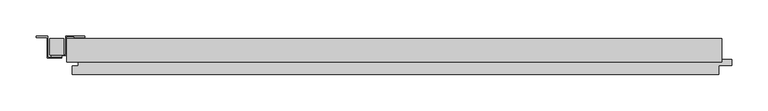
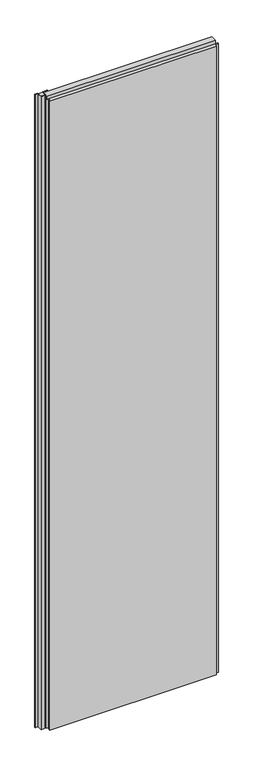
"""IFC4 building model written with IfcOpenShell, lengths in millimetres: plate geometry, Trimo_Qbiss Screen_Normal Panel-VERTICAL : HR - FB-F."""

import ifcopenshell
import ifcopenshell.guid

model = None  # the IFC model being written
_history = None  # IfcOwnerHistory: only IFC2X3 demands one
_inside = {}  # id of a spatial element -> (the spatial element, [elements in it])
_under = {}  # id of a project, library or spatial element -> (it, [spatial elements below it])
_declared = {}  # id of a project -> (the project, [libraries it declares])
_typed = {}  # id of a type object -> (the type object, [elements of that type])
_made_of = {}  # id of a material, layer set ... -> (it, [elements and type objects made of it])


def new_model(schema):
    """Start an empty IFC model of exactly this schema.

    Asked for "IFC4X3", IfcOpenShell would pick the latest addendum, in which some entities
    have other attributes; the version numbers below select the first issue.
    IFC2X3 requires an IfcOwnerHistory on every rooted entity: one is made here for all.
    """
    global model, _history
    if schema == "IFC4X3":
        model = ifcopenshell.file(schema_version=(4, 3, 0, 0))
    else:
        model = ifcopenshell.file(schema=schema)
    _inside.clear()
    _under.clear()
    _declared.clear()
    _typed.clear()
    _made_of.clear()
    _history = None
    if model.schema == "IFC2X3":
        org = make("IfcOrganization", Name="unknown")
        user = make(
            "IfcPersonAndOrganization",
            ThePerson=make("IfcPerson", FamilyName="unknown"),
            TheOrganization=org,
        )
        app = make(
            "IfcApplication",
            ApplicationDeveloper=org,
            Version="unknown",
            ApplicationFullName="unknown",
            ApplicationIdentifier="unknown",
        )
        _history = make(
            "IfcOwnerHistory",
            OwningUser=user,
            OwningApplication=app,
            ChangeAction="ADDED",
            CreationDate=0,
        )
    return model


def make(cls, **values):
    """One entity of the class cls with the attributes given. An attribute that is None is left unset."""
    return model.create_entity(
        cls, **{name: value for name, value in values.items() if value is not None}
    )


def rooted(cls, **values):
    """An entity with a GlobalId (a new one), such as an element, a storey or a relation."""
    return make(cls, GlobalId=ifcopenshell.guid.new(), OwnerHistory=_history, **values)


def si_unit(unit_type, name, prefix=None):
    """IfcSIUnit, for example si_unit("LENGTHUNIT", "METRE", prefix="MILLI")."""
    return make("IfcSIUnit", UnitType=unit_type, Prefix=prefix, Name=name)


def assignment(units):
    """IfcUnitAssignment: the units of a project."""
    return None if units is None else make("IfcUnitAssignment", Units=units)


def point(xyz):
    """IfcCartesianPoint."""
    return None if xyz is None else make("IfcCartesianPoint", Coordinates=xyz)


def direction(xyz):
    """IfcDirection."""
    return None if xyz is None else make("IfcDirection", DirectionRatios=xyz)


def frame(location, z_axis=None, x_axis=None):
    """IfcAxis2Placement3D, a coordinate frame: its origin and axes. An axis left out is left unset."""
    return make(
        "IfcAxis2Placement3D",
        Location=point(location),
        Axis=direction(z_axis),
        RefDirection=direction(x_axis),
    )


def origin():
    """The frame at (0, 0, 0) with its axes left unset."""
    return frame((0.0, 0.0, 0.0))


def place(relative_to, where):
    """IfcLocalPlacement: puts the frame where relative to a parent placement (None: the world)."""
    return make(
        "IfcLocalPlacement", PlacementRelTo=relative_to, RelativePlacement=where
    )


def context(
    kind, dimensions, precision=None, world=None, true_north=None, identifier=None
):
    """IfcGeometricRepresentationContext, for example the 3D "Model" context."""
    return make(
        "IfcGeometricRepresentationContext",
        ContextIdentifier=identifier,
        ContextType=kind,
        CoordinateSpaceDimension=dimensions,
        Precision=precision,
        WorldCoordinateSystem=world,
        TrueNorth=true_north,
    )


def project(units=None, contexts=None):
    """IfcProject with its units and contexts."""
    return rooted(
        "IfcProject",
        Name="project",
        RepresentationContexts=contexts,
        UnitsInContext=assignment(units),
    )


def spatial(cls, under=None, at=None, **own):
    """A site, building, storey or space (cls), placed at a placement, below another one or the project."""
    s = rooted(cls, ObjectPlacement=at, **own)
    if under is not None:
        _under.setdefault(under.id(), (under, []))[1].append(s)
    return s


def polyline(points):
    """IfcPolyline through the points."""
    return make("IfcPolyline", Points=[point(p) for p in points])


def outline(outer, holes=None, kind="AREA"):
    """IfcArbitraryClosedProfileDef: a profile drawn as a closed curve; with holes, ...WithVoids."""
    if holes is None:
        return make("IfcArbitraryClosedProfileDef", ProfileType=kind, OuterCurve=outer)
    return make(
        "IfcArbitraryProfileDefWithVoids",
        ProfileType=kind,
        OuterCurve=outer,
        InnerCurves=holes,
    )


def extrude(swept, where, along, depth):
    """IfcExtrudedAreaSolid: the profile swept, set in the frame where, extruded along a direction by depth."""
    return make(
        "IfcExtrudedAreaSolid",
        SweptArea=swept,
        Position=where,
        ExtrudedDirection=direction(along),
        Depth=depth,
    )


def shape(context_of_items, identifier, shape_type, items):
    """IfcShapeRepresentation: the items that make up one representation, for example the "Body"."""
    return make(
        "IfcShapeRepresentation",
        ContextOfItems=context_of_items,
        RepresentationIdentifier=identifier,
        RepresentationType=shape_type,
        Items=items,
    )


def source(mapping_origin, context_of_items, identifier, shape_type, items):
    """IfcRepresentationMap: a shape defined once, which mapped items show again and again."""
    return make(
        "IfcRepresentationMap",
        MappingOrigin=mapping_origin,
        MappedRepresentation=shape(context_of_items, identifier, shape_type, items),
    )


def transform(
    local_origin,
    x_axis=None,
    y_axis=None,
    z_axis=None,
    scale=None,
    scale2=None,
    scale3=None,
    uniform=True,
):
    """IfcCartesianTransformationOperator3D, or its non-uniform kind. x_axis, y_axis, z_axis: its Axis1, 2, 3."""
    if uniform:
        return make(
            "IfcCartesianTransformationOperator3D",
            Axis1=direction(x_axis),
            Axis2=direction(y_axis),
            LocalOrigin=point(local_origin),
            Scale=scale,
            Axis3=direction(z_axis),
        )
    return make(
        "IfcCartesianTransformationOperator3DnonUniform",
        Axis1=direction(x_axis),
        Axis2=direction(y_axis),
        LocalOrigin=point(local_origin),
        Scale=scale,
        Axis3=direction(z_axis),
        Scale2=scale2,
        Scale3=scale3,
    )


def mapped(mapping_source, mapping_target):
    """IfcMappedItem: shows the shape of a source again, moved by a transform."""
    return make(
        "IfcMappedItem", MappingSource=mapping_source, MappingTarget=mapping_target
    )


def made_of(thing, what):
    """Note that an element or type object is made of a material, layer set ...; save() writes the relation."""
    if what is not None:
        _made_of.setdefault(what.id(), (what, []))[1].append(thing)
    return thing


def element(
    cls,
    number,
    at=None,
    inside=None,
    cuts=None,
    type_object=None,
    material=None,
    context=None,
    identifier="Body",
    shape_type=None,
    held_by="IfcProductDefinitionShape",
    body=None,
    shapes=None,
    **own,
):
    """One element of the class cls, such as IfcWall. Its Tag is "e" and its number.

    at: its placement. inside: the storey or other place that contains it. cuts: it is an
    opening in that element (IfcRelVoidsElement). A single representation is given by context,
    identifier, shape_type and body (its items); several are given by shapes. held_by: the class
    of the entity that holds the representations. save() writes the other relations.
    """
    e = rooted(cls, Tag="e%d" % number, ObjectPlacement=at, **own)
    if body is not None:
        shapes = [shape(context, identifier, shape_type, body)]
    if shapes is not None:
        e.Representation = make(held_by, Representations=shapes)
    if inside is not None:
        _inside.setdefault(inside.id(), (inside, []))[1].append(e)
    if cuts is not None:
        rooted(
            "IfcRelVoidsElement", RelatingBuildingElement=cuts, RelatedOpeningElement=e
        )
    if type_object is not None:
        _typed.setdefault(type_object.id(), (type_object, []))[1].append(e)
    return made_of(e, material)


def aggregate(whole, parts):
    """IfcRelAggregates: a whole, such as a stair, and the parts it consists of."""
    return rooted("IfcRelAggregates", RelatingObject=whole, RelatedObjects=parts)


def save(model, path):
    """Write the relations noted so far, then the file.

    IfcRelAggregates (storeys below a building ...), IfcRelContainedInSpatialStructure (elements
    in a storey), IfcRelDefinesByType, IfcRelAssociatesMaterial and IfcRelDeclares: one each for
    every whole, place, type object, material and project.
    """
    for whole, parts in _under.values():
        aggregate(whole, parts)
    for where, things in _inside.values():
        rooted(
            "IfcRelContainedInSpatialStructure",
            RelatedElements=things,
            RelatingStructure=where,
        )
    for kind, things in _typed.values():
        rooted("IfcRelDefinesByType", RelatedObjects=things, RelatingType=kind)
    for what, things in _made_of.values():
        rooted("IfcRelAssociatesMaterial", RelatedObjects=things, RelatingMaterial=what)
    for by, libraries in _declared.values():
        rooted("IfcRelDeclares", RelatingContext=by, RelatedDefinitions=libraries)
    model.write(path)


def plate_5de9fe84(model_context):
    return source(origin(), model_context, "Body", "SweptSolid", [
        extrude(outline(polyline([(-436.8, 126.0), (-436.8, 103.2), (-455.8, 103.2), (-455.8, 126.0), (-436.8, 126.0)])), frame((0.0, 0.0, 12.5), z_axis=(0.0, 0.0, 1.0), x_axis=(1.0, 0.0, 0.0)), (0.0, 0.0, 1.0), 3600.0),
        extrude(outline(polyline([(-407.0, 127.6), (-422.0, 127.6), (-422.0, 128.4), (-407.8, 128.4), (-407.8, 129.2), (-433.0, 129.2), (-433.0, 102.4), (-453.2, 102.4), (-453.2, 101.6), (-439.0, 101.6), (-439.0, 100.8), (-454.0, 100.8), (-454.0, 103.2), (-433.8, 103.2), (-433.8, 130.0), (-407.0, 130.0), (-407.0, 127.6)])), frame((0.0, 0.0, 12.5), z_axis=(0.0, 0.0, 1.0), x_axis=(1.0, 0.0, 0.0)), (0.0, 0.0, 1.0), 3600.0),
        extrude(outline(polyline([(-439.0, 100.0), (-439.0, 99.2), (-459.6, 99.2), (-459.6, 129.2), (-474.2, 129.2), (-474.2, 128.4), (-460.0, 128.4), (-460.0, 127.6), (-475.0, 127.6), (-475.0, 130.0), (-458.8, 130.0), (-458.8, 100.0), (-439.0, 100.0)])), frame((0.0, 0.0, 12.5), z_axis=(0.0, 0.0, 1.0), x_axis=(1.0, 0.0, 0.0)), (0.0, 0.0, 1.0), 3600.0),
        extrude(outline(polyline([(-432.0, 93.9), (-432.0, 126.0), (477.0, 126.0), (477.0, 93.9), (-432.0, 93.9)])), frame((0.0, 0.0, 3590.5), z_axis=(0.0, 0.0, 1.0), x_axis=(1.0, 0.0, 0.0)), (0.0, 0.0, 1.0), 19.0),
        extrude(outline(polyline([(473.0, 97.0), (491.5, 97.0), (491.5, 89.0), (473.0, 89.0), (473.0, 76.0), (-425.0, 76.0), (-425.0, 88.0), (-416.5, 88.0), (-416.5, 98.0), (-432.0, 98.0), (-432.0, 126.0), (473.0, 126.0), (473.0, 97.0)])), frame((0.0, 0.0, 12.5), z_axis=(0.0, 0.0, 1.0), x_axis=(1.0, 0.0, 0.0)), (0.0, 0.0, 1.0), 3575.0),
    ])


if __name__ == "__main__":
    model = new_model("IFC4")
    model_context = context("Model", 3, world=origin())
    ifc_project = project(units=[si_unit("LENGTHUNIT", "METRE", prefix="MILLI")], contexts=[model_context])
    site = spatial("IfcSite", under=ifc_project)
    building = spatial("IfcBuilding", under=site)
    placement = place(None, origin())
    plate_shape = plate_5de9fe84(model_context)
    element("IfcPlate", 1, ObjectType="Trimo_Qbiss Screen_Normal Panel-VERTICAL : HR - FB-F", at=placement, inside=building, context=model_context, shape_type="MappedRepresentation", body=[
        mapped(plate_shape, transform((0.0, 0.0, 0.0), x_axis=(1.0, 0.0, 0.0), y_axis=(0.0, 1.0, 0.0), z_axis=(0.0, 0.0, 1.0))),
    ])
    save(model, "model.ifc")
